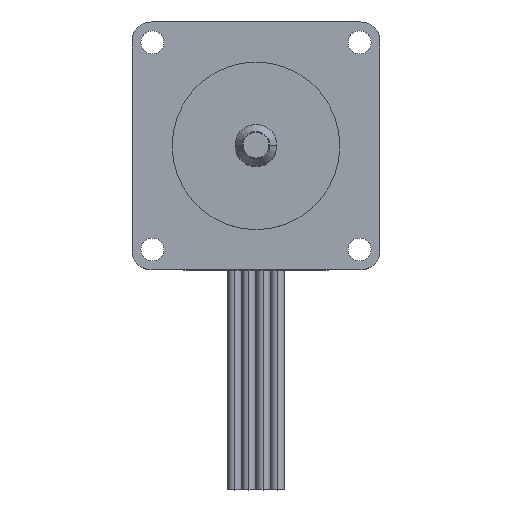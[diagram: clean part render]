
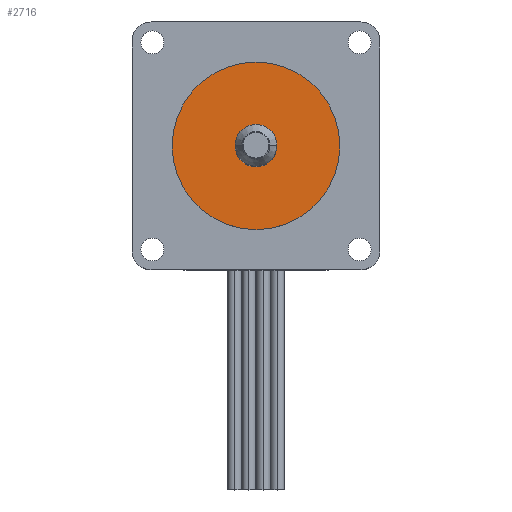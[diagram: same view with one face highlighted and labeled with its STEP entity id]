
A CAD part, top view. The second image highlights one B-rep face of the part: STEP entity #2716.
In plain terms, the highlighted planar face has unit normal (0, 0, 1).
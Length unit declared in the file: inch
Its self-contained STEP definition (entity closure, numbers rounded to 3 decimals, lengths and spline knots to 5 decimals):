
#39 = DIRECTION ( 'NONE',  ( 1., 0., 0. ) ) ;
#112 = ORIENTED_EDGE ( 'NONE', *, *, #2156, .T. ) ;
#176 = DIRECTION ( 'NONE',  ( 1., 0., 0. ) ) ;
#439 = CARTESIAN_POINT ( 'NONE',  ( 0., 0., 0.05906 ) ) ;
#469 = CARTESIAN_POINT ( 'NONE',  ( 0.1875, 0., 0.05906 ) ) ;
#578 = CIRCLE ( 'NONE', #2130, 0.751 ) ;
#656 = CARTESIAN_POINT ( 'NONE',  ( -0.751, 0., 0.05906 ) ) ;
#657 = VERTEX_POINT ( 'NONE', #1105 ) ;
#781 = EDGE_CURVE ( 'NONE', #657, #2218, #2289, .T. ) ;
#802 = CARTESIAN_POINT ( 'NONE',  ( 0., 0., 0.05906 ) ) ;
#811 = FACE_BOUND ( 'NONE', #1890, .T. ) ;
#1096 = DIRECTION ( 'NONE',  ( 1., 0., 0. ) ) ;
#1097 = VERTEX_POINT ( 'NONE', #1842 ) ;
#1105 = CARTESIAN_POINT ( 'NONE',  ( 0.751, 0., 0.05906 ) ) ;
#1183 = CIRCLE ( 'NONE', #2602, 0.1875 ) ;
#1202 = CARTESIAN_POINT ( 'NONE',  ( 0., 0., 0.05906 ) ) ;
#1235 = DIRECTION ( 'NONE',  ( 0., 0., 1. ) ) ;
#1248 = CIRCLE ( 'NONE', #2492, 0.1875 ) ;
#1386 = AXIS2_PLACEMENT_3D ( 'NONE', #1829, #2306, #3163 ) ;
#1609 = PLANE ( 'NONE',  #3169 ) ;
#1633 = DIRECTION ( 'NONE',  ( 0., 0., 1. ) ) ;
#1829 = CARTESIAN_POINT ( 'NONE',  ( 0., 0., 0.05906 ) ) ;
#1842 = CARTESIAN_POINT ( 'NONE',  ( -0.1875, 0., 0.05906 ) ) ;
#1870 = FACE_OUTER_BOUND ( 'NONE', #2104, .T. ) ;
#1890 = EDGE_LOOP ( 'NONE', ( #2791, #2836 ) ) ;
#1899 = DIRECTION ( 'NONE',  ( 0., 0., 1. ) ) ;
#2104 = EDGE_LOOP ( 'NONE', ( #112, #2526 ) ) ;
#2130 = AXIS2_PLACEMENT_3D ( 'NONE', #802, #1633, #1096 ) ;
#2156 = EDGE_CURVE ( 'NONE', #2218, #657, #578, .T. ) ;
#2218 = VERTEX_POINT ( 'NONE', #656 ) ;
#2289 = CIRCLE ( 'NONE', #1386, 0.751 ) ;
#2306 = DIRECTION ( 'NONE',  ( 0., 0., 1. ) ) ;
#2492 = AXIS2_PLACEMENT_3D ( 'NONE', #1202, #3351, #39 ) ;
#2526 = ORIENTED_EDGE ( 'NONE', *, *, #781, .T. ) ;
#2602 = AXIS2_PLACEMENT_3D ( 'NONE', #439, #1235, #176 ) ;
#2716 = ADVANCED_FACE ( 'NONE', ( #811, #1870 ), #1609, .T. ) ;
#2791 = ORIENTED_EDGE ( 'NONE', *, *, #3309, .F. ) ;
#2836 = ORIENTED_EDGE ( 'NONE', *, *, #2837, .F. ) ;
#2837 = EDGE_CURVE ( 'NONE', #1097, #3270, #1183, .T. ) ;
#2987 = DIRECTION ( 'NONE',  ( 1., 0., 0. ) ) ;
#3020 = CARTESIAN_POINT ( 'NONE',  ( 0., 0., 0.05906 ) ) ;
#3163 = DIRECTION ( 'NONE',  ( 1., 0., 0. ) ) ;
#3169 = AXIS2_PLACEMENT_3D ( 'NONE', #3020, #1899, #2987 ) ;
#3270 = VERTEX_POINT ( 'NONE', #469 ) ;
#3309 = EDGE_CURVE ( 'NONE', #3270, #1097, #1248, .T. ) ;
#3351 = DIRECTION ( 'NONE',  ( 0., 0., 1. ) ) ;
